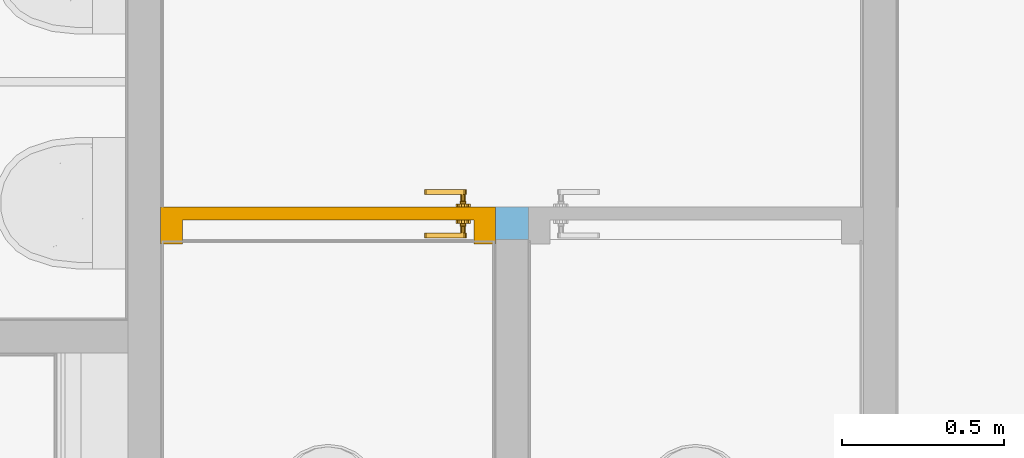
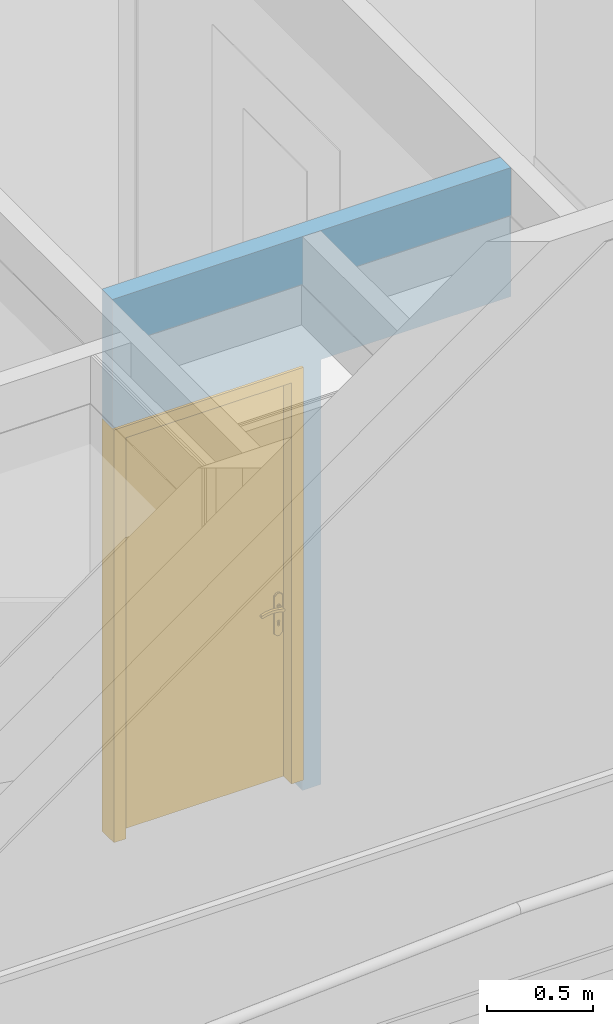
# One storey, part 5 of 788: 1 door, 2 openings, plus 1 element that does not belong to this part.
"""IFC2X3 building model written with IfcOpenShell, lengths in millimetres."""

from ifc_helpers import new_model, entity, si_unit, converted_unit, derived_unit, money_unit, direction, frame, origin_with_axes, place, context, subcontext, project, spatial, faceted_brep, source, transform, mapped, material, type_object, type_shapes, element, fill, save


model = new_model("IFC2X3")

# Units and contexts
model_context = context("Model", 3, precision=0.01, world=origin_with_axes(), true_north=direction((0.0, 1.0)))
plan_context = context("Plan", 3, precision=0.01, world=origin_with_axes(), true_north=direction((0.0, 1.0)))
body_context = subcontext(model_context, "Body", "Model", "MODEL_VIEW")
ifc_project = project(units=[si_unit("LENGTHUNIT", "METRE", prefix="MILLI"), si_unit("AREAUNIT", "SQUARE_METRE"), si_unit("VOLUMEUNIT", "CUBIC_METRE"), converted_unit("PLANEANGLEUNIT", "DEGREE", entity("IfcPlaneAngleMeasure", 0.0174532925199), si_unit("PLANEANGLEUNIT", "RADIAN"), dimensions=[0, 0, 0, 0, 0, 0, 0]), money_unit("EUR"), converted_unit("TIMEUNIT", "Year", entity("IfcTimeMeasure", 31556926.0), si_unit("TIMEUNIT", "SECOND"), dimensions=[0, 0, 1, 0, 0, 0, 0]), si_unit("MASSUNIT", "GRAM", prefix="KILO"), si_unit("THERMODYNAMICTEMPERATUREUNIT", "DEGREE_CELSIUS"), si_unit("LUMINOUSINTENSITYUNIT", "LUMEN"), si_unit("ENERGYUNIT", "JOULE", prefix="MEGA"), derived_unit("THERMALCONDUCTANCEUNIT", [(si_unit("POWERUNIT", "WATT"), 1), (si_unit("LENGTHUNIT", "METRE"), -1), (si_unit("THERMODYNAMICTEMPERATUREUNIT", "KELVIN"), -1)]), derived_unit("SPECIFICHEATCAPACITYUNIT", [(si_unit("ENERGYUNIT", "JOULE"), 1), (si_unit("MASSUNIT", "GRAM", prefix="KILO"), -1), (si_unit("THERMODYNAMICTEMPERATUREUNIT", "KELVIN"), -1)]), derived_unit("MASSDENSITYUNIT", [(si_unit("MASSUNIT", "GRAM", prefix="KILO"), 1), (si_unit("VOLUMEUNIT", "CUBIC_METRE"), -1)])], contexts=[model_context, plan_context])

# Site, building, storey
site_placement = place(None, origin_with_axes())
site = spatial("IfcSite", under=ifc_project, at=site_placement, Name="Site", CompositionType="ELEMENT")
building_placement = place(site_placement, origin_with_axes())
building = spatial("IfcBuilding", under=site, at=building_placement, Name="Naam gebouw", CompositionType="ELEMENT")
storey_placement = place(building_placement, origin_with_axes())
storey = spatial("IfcBuildingStorey", under=building, at=storey_placement, Name="Begane grond", CompositionType="ELEMENT", Elevation=0.0)

# Wall, openings, door
ifc_material = material(Name="Steen - Betonblok C")
wall_type = type_object("IfcWallType", Name="22 Binnenwand NC_betonblok 100mm 100", PredefinedType="ELEMENTEDWALL")
wall_placement = place(storey_placement, frame((69606.0166564, -56503.9858655, 830.0), z_axis=(0.0, 0.0, 1.0), x_axis=(-1.0, 0.0, 0.0)))
wall = element("IfcWall", 1, at=wall_placement, inside=storey, type_object=wall_type, material=ifc_material, Name="Binnenwand", context=body_context, shape_type="Brep", body=[
    faceted_brep([(1136.00000005, -50.0, 2447.0), (2170.00000005, -50.0, 2447.0), (2170.0, -50.0, 3190.0), (0.0, -50.0, 3190.0), (0.0, -50.0, 2447.0), (1034.0, -50.0, 2447.0), (1034.0, -50.0, 70.0), (1034.0, -50.0, 0.0), (1136.00000005, -50.0, 0.0), (1136.00000005, -50.0, 70.0), (1136.00000005, 50.0, 2447.0), (2170.00000005, 50.0, 2447.0), (2170.0, 50.0, 3190.0), (0.0, 50.0, 3190.0), (0.0, 50.0, 2447.0), (1034.0, 50.0, 2447.0), (1034.0, 50.0, 70.0), (1034.0, 50.0, 0.0), (1136.00000005, 50.0, 0.0), (1136.00000005, 50.0, 70.0)], [[[0, 1, 2, 3, 4, 5, 6, 7, 8, 9]], [[1, 0, 10, 11]], [[1, 11, 12, 2]], [[12, 13, 3, 2]], [[4, 3, 13, 14]], [[4, 14, 15, 5]], [[5, 15, 16, 6]], [[16, 17, 7, 6]], [[8, 7, 17, 18]], [[19, 9, 8, 18]], [[0, 9, 19, 10]], [[10, 19, 18, 17, 16, 15, 14, 13, 12, 11]]]),
])
opening_1_placement = place(wall_placement, frame((517.0, 0.0, 70.0), z_axis=(0.0, 0.0, 1.0), x_axis=(1.0, 0.0, 0.0)))
element("IfcOpeningElement", 2, at=opening_1_placement, cuts=wall, Name="b1.13", context=body_context, shape_type="Brep", body=[
    faceted_brep([(-517.0, 100.0, 2377.0), (-517.0, 100.0, 0.0), (-517.0, -200.0, 0.0), (-517.0, -200.0, 2377.0), (517.0, 100.0, 2377.0), (517.0, 100.0, 0.0), (517.0, -200.0, 0.0), (517.0, -200.0, 2377.0)], [[[0, 1, 2, 3]], [[0, 4, 5, 1]], [[1, 5, 6, 2]], [[3, 2, 6, 7]], [[4, 0, 3, 7]], [[5, 4, 7, 6]]]),
])
opening_2_placement = place(wall_placement, frame((1653.00000005, 0.0, 70.0), z_axis=(0.0, 0.0, 1.0), x_axis=(1.0, 0.0, 0.0)))
opening_2 = element("IfcOpeningElement", 3, at=opening_2_placement, cuts=wall, Name="b1.13-sp", context=body_context, shape_type="Brep", body=[
    faceted_brep([(517.0, -200.0, 2377.0), (517.0, -200.0, 0.0), (517.0, 100.0, 0.0), (517.0, 100.0, 2377.0), (-517.0, -200.0, 2377.0), (-517.0, -200.0, 0.0), (-517.0, 100.0, 0.0), (-517.0, 100.0, 2377.0)], [[[0, 1, 2, 3]], [[0, 4, 5, 1]], [[1, 5, 6, 2]], [[3, 2, 6, 7]], [[4, 0, 3, 7]], [[5, 4, 7, 6]]]),
])
door_style = type_object("IfcDoorStyle", Name="D1 25", ConstructionType="NOTDEFINED", OperationType="SINGLE_SWING_LEFT", ParameterTakesPrecedence=False, Sizeable=False)
shared_shape = source(origin_with_axes(), body_context, "Body", "Brep", [
    faceted_brep([(450.0, -40.0, 0.0), (450.0, -114.0, 0.0), (450.0, -114.0, 2310.0), (450.0, -40.0, 2310.0), (467.0, -40.0, 0.0), (467.0, 0.0, 0.0), (517.0, 0.0, 0.0), (517.0, -114.0, 0.0), (517.0, -114.0, 2310.0), (467.0, -40.0, 2310.0), (517.0, 0.0, 2310.0), (467.0, 0.0, 2310.0)], [[[0, 1, 2, 3]], [[4, 5, 6, 7, 1, 0]], [[1, 7, 8, 2]], [[9, 3, 2, 8, 10, 11]], [[9, 4, 0, 3]], [[11, 5, 4, 9]], [[11, 10, 6, 5]], [[6, 10, 8, 7]]]),
    faceted_brep([(-467.0, -40.0, 2310.0), (-467.0, 0.0, 2310.0), (-517.0, 0.0, 2310.0), (-517.0, -114.0, 2310.0), (-450.0, -114.0, 2310.0), (-450.0, -40.0, 2310.0), (-467.0, -40.0, 0.0), (-467.0, 0.0, 0.0), (-517.0, 0.0, 0.0), (-517.0, -114.0, 0.0), (-450.0, -114.0, 0.0), (-450.0, -40.0, 0.0)], [[[0, 1, 2, 3, 4, 5]], [[0, 6, 7, 1]], [[7, 8, 2, 1]], [[2, 8, 9, 3]], [[3, 9, 10, 4]], [[5, 4, 10, 11]], [[5, 11, 6, 0]], [[6, 11, 10, 9, 8, 7]]]),
    faceted_brep([(467.0, 0.0, 2327.0), (-467.0, 0.0, 2327.0), (-467.0, 0.0, 2310.0), (-517.0, 0.0, 2310.0), (-517.0, 0.0, 2377.0), (517.0, 0.0, 2377.0), (517.0, 0.0, 2310.0), (467.0, 0.0, 2310.0), (467.0, -40.0, 2327.0), (-467.0, -40.0, 2327.0), (-467.0, -40.0, 2310.0), (-450.0, -40.0, 2310.0), (-450.0, -114.0, 2310.0), (-517.0, -114.0, 2310.0), (-517.0, -114.0, 2377.0), (517.0, -114.0, 2377.0), (517.0, -114.0, 2310.0), (467.0, -40.0, 2310.0), (450.0, -114.0, 2310.0), (450.0, -40.0, 2310.0)], [[[0, 1, 2, 3, 4, 5, 6, 7]], [[0, 8, 9, 1]], [[1, 9, 10, 2]], [[10, 11, 12, 13, 3, 2]], [[4, 3, 13, 14]], [[5, 4, 14, 15]], [[6, 5, 15, 16]], [[17, 7, 6, 16, 18, 19]], [[7, 17, 8, 0]], [[10, 9, 8, 17, 19, 11]], [[19, 18, 12, 11]], [[12, 18, 16, 15, 14, 13]]]),
    faceted_brep([(421.702282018, -80.0, 1006.47213595), (421.702282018, -60.0, 1006.47213595), (417.0, -60.0, 1008.0), (417.0, -80.0, 1008.0), (424.60845213, -80.0, 1002.47213595), (424.60845213, -60.0, 1002.47213595), (422.877852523, -58.0, 1008.09016994), (417.0, -58.0, 1010.0), (412.297717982, -60.0, 1006.47213595), (412.297717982, -80.0, 1006.47213595), (409.39154787, -80.0, 1002.47213595), (409.39154787, -80.0, 997.527864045), (412.297717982, -80.0, 993.527864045), (417.0, -80.0, 992.0), (421.702282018, -80.0, 993.527864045), (424.60845213, -80.0, 997.527864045), (424.60845213, -60.0, 997.527864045), (426.510565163, -58.0, 1003.09016994), (422.877852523, -50.0, 1008.09016994), (417.0, -50.0, 1010.0), (411.122147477, -58.0, 1008.09016994), (409.39154787, -60.0, 1002.47213595), (409.39154787, -60.0, 997.527864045), (412.297717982, -60.0, 993.527864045), (417.0, -60.0, 992.0), (421.702282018, -60.0, 993.527864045), (426.510565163, -58.0, 996.909830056), (426.510565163, -50.0, 1003.09016994), (426.510565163, -50.0, 996.909830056), (422.877852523, -50.0, 991.909830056), (417.0, -50.0, 990.0), (411.122147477, -50.0, 991.909830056), (407.489434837, -50.0, 996.909830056), (407.489434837, -50.0, 1003.09016994), (411.122147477, -50.0, 1008.09016994), (407.489434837, -58.0, 1003.09016994), (407.489434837, -58.0, 996.909830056), (411.122147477, -58.0, 991.909830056), (417.0, -58.0, 990.0), (422.877852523, -58.0, 991.909830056)], [[[0, 1, 2, 3]], [[4, 5, 1, 0]], [[1, 6, 7, 2]], [[3, 2, 8, 9]], [[3, 9, 10, 11, 12, 13, 14, 15, 4, 0]], [[15, 16, 5, 4]], [[5, 17, 6, 1]], [[6, 18, 19, 7]], [[2, 7, 20, 8]], [[9, 8, 21, 10]], [[10, 21, 22, 11]], [[11, 22, 23, 12]], [[12, 23, 24, 13]], [[13, 24, 25, 14]], [[14, 25, 16, 15]], [[16, 26, 17, 5]], [[17, 27, 18, 6]], [[19, 18, 27, 28, 29, 30, 31, 32, 33, 34]], [[7, 19, 34, 20]], [[8, 20, 35, 21]], [[21, 35, 36, 22]], [[22, 36, 37, 23]], [[23, 37, 38, 24]], [[24, 38, 39, 25]], [[25, 39, 26, 16]], [[26, 28, 27, 17]], [[39, 29, 28, 26]], [[38, 30, 29, 39]], [[37, 31, 30, 38]], [[36, 32, 31, 37]], [[35, 33, 32, 36]], [[20, 34, 33, 35]]]),
    faceted_brep([(404.811616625, -50.0, 1067.59695641), (400.2, -50.0, 1060.0), (394.5, -50.0, 1060.0), (394.5, -50.0, 840.0), (400.2, -50.0, 840.0), (404.811616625, -50.0, 832.403043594), (412.556444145, -50.0, 828.044328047), (421.443555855, -50.0, 828.044328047), (429.188383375, -50.0, 832.403043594), (433.8, -50.0, 840.0), (439.5, -50.0, 840.0), (439.5, -50.0, 1060.0), (433.8, -50.0, 1060.0), (429.188383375, -50.0, 1067.59695641), (421.443555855, -50.0, 1071.95567195), (412.556444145, -50.0, 1071.95567195), (417.0, -50.0, 917.425445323), (422.375182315, -50.0, 915.143815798), (424.467830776, -50.0, 909.692280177), (422.0, -50.0, 904.4), (422.0, -50.0, 887.5), (420.535533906, -50.0, 883.964466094), (417.0, -50.0, 882.5), (413.464466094, -50.0, 883.964466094), (412.0, -50.0, 887.5), (412.0, -50.0, 904.4), (409.532169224, -50.0, 909.692280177), (411.624817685, -50.0, 915.143815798), (404.811616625, -40.0, 1067.59695641), (400.2, -40.0, 1060.0), (394.5, -40.0, 1060.0), (394.5, -40.0, 840.0), (400.2, -40.0, 840.0), (404.811616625, -40.0, 832.403043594), (412.556444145, -40.0, 828.044328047), (421.443555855, -40.0, 828.044328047), (429.188383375, -40.0, 832.403043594), (433.8, -40.0, 840.0), (439.5, -40.0, 840.0), (439.5, -40.0, 1060.0), (433.8, -40.0, 1060.0), (429.188383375, -40.0, 1067.59695641), (421.443555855, -40.0, 1071.95567195), (412.556444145, -40.0, 1071.95567195), (417.0, -40.0, 917.425445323), (422.375182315, -40.0, 915.143815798), (424.467830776, -40.0, 909.692280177), (422.0, -40.0, 904.4), (422.0, -40.0, 887.5), (420.535533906, -40.0, 883.964466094), (417.0, -40.0, 882.5), (413.464466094, -40.0, 883.964466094), (412.0, -40.0, 887.5), (412.0, -40.0, 904.4), (409.532169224, -40.0, 909.692280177), (411.624817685, -40.0, 915.143815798)], [[[0, 1, 2, 3, 4, 5, 6, 7, 8, 9, 10, 11, 12, 13, 14, 15], [16, 17, 18, 19, 20, 21, 22, 23, 24, 25, 26, 27]], [[0, 28, 29, 1]], [[1, 29, 30, 2]], [[2, 30, 31, 3]], [[3, 31, 32, 4]], [[4, 32, 33, 5]], [[5, 33, 34, 6]], [[6, 34, 35, 7]], [[7, 35, 36, 8]], [[8, 36, 37, 9]], [[9, 37, 38, 10]], [[10, 38, 39, 11]], [[11, 39, 40, 12]], [[12, 40, 41, 13]], [[13, 41, 42, 14]], [[14, 42, 43, 15]], [[15, 43, 28, 0]], [[16, 44, 45, 17]], [[17, 45, 46, 18]], [[18, 46, 47, 19]], [[47, 48, 20, 19]], [[21, 20, 48, 49]], [[22, 21, 49, 50]], [[23, 22, 50, 51]], [[24, 23, 51, 52]], [[25, 24, 52, 53]], [[25, 53, 54, 26]], [[26, 54, 55, 27]], [[27, 55, 44, 16]], [[32, 31, 30, 29, 28, 43, 42, 41, 40, 39, 38, 37, 36, 35, 34, 33], [46, 45, 44, 55, 54, 53, 52, 51, 50, 49, 48, 47]]]),
    faceted_brep([(302.747, -80.0, 1007.158), (302.745508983, -80.0, 1007.19388416), (302.745508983, -95.0, 1007.19388416), (302.747, -95.0, 1007.158), (329.774630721, -80.0, 1014.32652034), (357.602743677, -80.0, 1017.06086405), (385.508740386, -80.0, 1015.29002982), (412.768, -80.0, 1009.06), (419.170575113, -80.0, 1009.76125134), (424.672633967, -80.0, 1006.41280843), (426.991512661, -80.0, 1000.40385485), (425.165167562, -80.0, 994.227352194), (419.951302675, -80.0, 990.445773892), (413.513017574, -80.0, 990.628000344), (408.521392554, -80.0, 994.698430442), (408.542, -80.0, 994.666), (383.253286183, -80.0, 1000.19878945), (357.410818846, -80.0, 1001.71460194), (331.648684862, -80.0, 999.176244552), (306.599, -80.0, 992.646), (301.055815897, -80.0, 993.568490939), (297.69427449, -80.0, 998.071591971), (298.385844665, -80.0, 1003.64829442), (298.385844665, -95.0, 1003.64829442), (297.69427449, -95.0, 998.071591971), (301.055815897, -95.0, 993.568490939), (306.599, -95.0, 992.646), (331.648684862, -95.0, 999.176244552), (357.410818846, -95.0, 1001.71460194), (383.253286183, -95.0, 1000.19878945), (408.542, -95.0, 994.666), (408.521392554, -95.0, 994.698430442), (413.513017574, -95.0, 990.628000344), (419.951302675, -95.0, 990.445773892), (425.165167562, -95.0, 994.227352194), (426.991512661, -95.0, 1000.40385485), (424.672633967, -95.0, 1006.41280843), (419.170575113, -95.0, 1009.76125134), (412.768, -95.0, 1009.06), (385.508740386, -95.0, 1015.29002982), (357.602743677, -95.0, 1017.06086405), (329.774630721, -95.0, 1014.32652034)], [[[0, 1, 2, 3]], [[0, 4, 5, 6, 7, 8, 9, 10, 11, 12, 13, 14, 15, 16, 17, 18, 19, 20, 21, 22, 1]], [[1, 22, 23, 2]], [[3, 2, 23, 24, 25, 26, 27, 28, 29, 30, 31, 32, 33, 34, 35, 36, 37, 38, 39, 40, 41]], [[4, 0, 3, 41]], [[5, 4, 41, 40]], [[6, 5, 40, 39]], [[7, 6, 39, 38]], [[8, 7, 38, 37]], [[9, 8, 37, 36]], [[10, 9, 36, 35]], [[11, 10, 35, 34]], [[12, 11, 34, 33]], [[13, 12, 33, 32]], [[14, 13, 32, 31]], [[15, 14, 31, 30]], [[16, 15, 30, 29]], [[17, 16, 29, 28]], [[18, 17, 28, 27]], [[19, 18, 27, 26]], [[20, 19, 26, 25]], [[21, 20, 25, 24]], [[22, 21, 24, 23]]]),
    faceted_brep([(421.702282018, 40.0, 1006.47213595), (417.0, 40.0, 1008.0), (417.0, 20.0, 1008.0), (421.702282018, 20.0, 1006.47213595), (424.60845213, 40.0, 1002.47213595), (424.60845213, 40.0, 997.527864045), (421.702282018, 40.0, 993.527864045), (417.0, 40.0, 992.0), (412.297717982, 40.0, 993.527864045), (409.39154787, 40.0, 997.527864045), (409.39154787, 40.0, 1002.47213595), (412.297717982, 40.0, 1006.47213595), (412.297717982, 20.0, 1006.47213595), (417.0, 18.0, 1010.0), (422.877852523, 18.0, 1008.09016994), (424.60845213, 20.0, 1002.47213595), (424.60845213, 20.0, 997.527864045), (421.702282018, 20.0, 993.527864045), (417.0, 20.0, 992.0), (412.297717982, 20.0, 993.527864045), (409.39154787, 20.0, 997.527864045), (409.39154787, 20.0, 1002.47213595), (411.122147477, 18.0, 1008.09016994), (417.0, 10.0, 1010.0), (422.877852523, 10.0, 1008.09016994), (426.510565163, 18.0, 1003.09016994), (426.510565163, 18.0, 996.909830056), (422.877852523, 18.0, 991.909830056), (417.0, 18.0, 990.0), (411.122147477, 18.0, 991.909830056), (407.489434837, 18.0, 996.909830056), (407.489434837, 18.0, 1003.09016994), (411.122147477, 10.0, 1008.09016994), (407.489434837, 10.0, 1003.09016994), (407.489434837, 10.0, 996.909830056), (411.122147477, 10.0, 991.909830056), (417.0, 10.0, 990.0), (422.877852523, 10.0, 991.909830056), (426.510565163, 10.0, 996.909830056), (426.510565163, 10.0, 1003.09016994)], [[[0, 1, 2, 3]], [[1, 0, 4, 5, 6, 7, 8, 9, 10, 11]], [[1, 11, 12, 2]], [[3, 2, 13, 14]], [[4, 0, 3, 15]], [[5, 4, 15, 16]], [[6, 5, 16, 17]], [[7, 6, 17, 18]], [[8, 7, 18, 19]], [[9, 8, 19, 20]], [[10, 9, 20, 21]], [[11, 10, 21, 12]], [[2, 12, 22, 13]], [[14, 13, 23, 24]], [[15, 3, 14, 25]], [[16, 15, 25, 26]], [[17, 16, 26, 27]], [[18, 17, 27, 28]], [[19, 18, 28, 29]], [[20, 19, 29, 30]], [[21, 20, 30, 31]], [[12, 21, 31, 22]], [[13, 22, 32, 23]], [[23, 32, 33, 34, 35, 36, 37, 38, 39, 24]], [[25, 14, 24, 39]], [[26, 25, 39, 38]], [[27, 26, 38, 37]], [[28, 27, 37, 36]], [[29, 28, 36, 35]], [[30, 29, 35, 34]], [[31, 30, 34, 33]], [[22, 31, 33, 32]]]),
    faceted_brep([(404.811616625, 0.0, 1067.59695641), (400.2, 0.0, 1060.0), (394.5, 0.0, 1060.0), (394.5, 0.0, 840.0), (400.2, 0.0, 840.0), (404.811616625, 0.0, 832.403043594), (412.556444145, 0.0, 828.044328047), (421.443555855, 0.0, 828.044328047), (429.188383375, 0.0, 832.403043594), (433.8, 0.0, 840.0), (439.5, 0.0, 840.0), (439.5, 0.0, 1060.0), (433.8, 0.0, 1060.0), (429.188383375, 0.0, 1067.59695641), (421.443555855, 0.0, 1071.95567195), (412.556444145, 0.0, 1071.95567195), (417.0, 0.0, 917.425445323), (422.375182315, 0.0, 915.143815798), (424.467830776, 0.0, 909.692280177), (422.0, 0.0, 904.4), (422.0, 0.0, 887.5), (420.535533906, 0.0, 883.964466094), (417.0, 0.0, 882.5), (413.464466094, 0.0, 883.964466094), (412.0, 0.0, 887.5), (412.0, 0.0, 904.4), (409.532169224, 0.0, 909.692280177), (411.624817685, 0.0, 915.143815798), (404.811616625, 10.0, 1067.59695641), (400.2, 10.0, 1060.0), (394.5, 10.0, 1060.0), (394.5, 10.0, 840.0), (400.2, 10.0, 840.0), (404.811616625, 10.0, 832.403043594), (412.556444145, 10.0, 828.044328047), (421.443555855, 10.0, 828.044328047), (429.188383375, 10.0, 832.403043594), (433.8, 10.0, 840.0), (439.5, 10.0, 840.0), (439.5, 10.0, 1060.0), (433.8, 10.0, 1060.0), (429.188383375, 10.0, 1067.59695641), (421.443555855, 10.0, 1071.95567195), (412.556444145, 10.0, 1071.95567195), (417.0, 10.0, 917.425445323), (422.375182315, 10.0, 915.143815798), (424.467830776, 10.0, 909.692280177), (422.0, 10.0, 904.4), (422.0, 10.0, 887.5), (420.535533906, 10.0, 883.964466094), (417.0, 10.0, 882.5), (413.464466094, 10.0, 883.964466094), (412.0, 10.0, 887.5), (412.0, 10.0, 904.4), (409.532169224, 10.0, 909.692280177), (411.624817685, 10.0, 915.143815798)], [[[0, 1, 2, 3, 4, 5, 6, 7, 8, 9, 10, 11, 12, 13, 14, 15], [16, 17, 18, 19, 20, 21, 22, 23, 24, 25, 26, 27]], [[28, 29, 1, 0]], [[29, 30, 2, 1]], [[30, 31, 3, 2]], [[31, 32, 4, 3]], [[32, 33, 5, 4]], [[33, 34, 6, 5]], [[34, 35, 7, 6]], [[35, 36, 8, 7]], [[36, 37, 9, 8]], [[37, 38, 10, 9]], [[38, 39, 11, 10]], [[39, 40, 12, 11]], [[40, 41, 13, 12]], [[41, 42, 14, 13]], [[42, 43, 15, 14]], [[43, 28, 0, 15]], [[16, 44, 45, 17]], [[17, 45, 46, 18]], [[18, 46, 47, 19]], [[47, 48, 20, 19]], [[21, 20, 48, 49]], [[22, 21, 49, 50]], [[23, 22, 50, 51]], [[24, 23, 51, 52]], [[25, 24, 52, 53]], [[25, 53, 54, 26]], [[26, 54, 55, 27]], [[27, 55, 44, 16]], [[32, 31, 30, 29, 28, 43, 42, 41, 40, 39, 38, 37, 36, 35, 34, 33], [46, 45, 44, 55, 54, 53, 52, 51, 50, 49, 48, 47]]]),
    faceted_brep([(302.747, 40.0, 1007.158), (302.747, 55.0, 1007.158), (302.745508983, 55.0, 1007.19388416), (302.745508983, 40.0, 1007.19388416), (329.774630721, 40.0, 1014.32652034), (329.774630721, 55.0, 1014.32652034), (357.602743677, 55.0, 1017.06086405), (385.508740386, 55.0, 1015.29002982), (412.768, 55.0, 1009.06), (419.170575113, 55.0, 1009.76125134), (424.672633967, 55.0, 1006.41280843), (426.991512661, 55.0, 1000.40385485), (425.165167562, 55.0, 994.227352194), (419.951302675, 55.0, 990.445773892), (413.513017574, 55.0, 990.628000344), (408.521392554, 55.0, 994.698430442), (408.542, 55.0, 994.666), (383.253286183, 55.0, 1000.19878945), (357.410818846, 55.0, 1001.71460194), (331.648684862, 55.0, 999.176244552), (306.599, 55.0, 992.646), (301.055815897, 55.0, 993.568490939), (297.69427449, 55.0, 998.071591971), (298.385844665, 55.0, 1003.64829442), (298.385844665, 40.0, 1003.64829442), (297.69427449, 40.0, 998.071591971), (301.055815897, 40.0, 993.568490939), (306.599, 40.0, 992.646), (331.648684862, 40.0, 999.176244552), (357.410818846, 40.0, 1001.71460194), (383.253286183, 40.0, 1000.19878945), (408.542, 40.0, 994.666), (408.521392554, 40.0, 994.698430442), (413.513017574, 40.0, 990.628000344), (419.951302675, 40.0, 990.445773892), (425.165167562, 40.0, 994.227352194), (426.991512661, 40.0, 1000.40385485), (424.672633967, 40.0, 1006.41280843), (419.170575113, 40.0, 1009.76125134), (412.768, 40.0, 1009.06), (385.508740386, 40.0, 1015.29002982), (357.602743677, 40.0, 1017.06086405)], [[[0, 1, 2, 3]], [[4, 5, 1, 0]], [[1, 5, 6, 7, 8, 9, 10, 11, 12, 13, 14, 15, 16, 17, 18, 19, 20, 21, 22, 23, 2]], [[3, 2, 23, 24]], [[0, 3, 24, 25, 26, 27, 28, 29, 30, 31, 32, 33, 34, 35, 36, 37, 38, 39, 40, 41, 4]], [[41, 6, 5, 4]], [[40, 7, 6, 41]], [[39, 8, 7, 40]], [[38, 9, 8, 39]], [[37, 10, 9, 38]], [[36, 11, 10, 37]], [[35, 12, 11, 36]], [[34, 13, 12, 35]], [[33, 14, 13, 34]], [[32, 15, 14, 33]], [[31, 16, 15, 32]], [[30, 17, 16, 31]], [[29, 18, 17, 30]], [[28, 19, 18, 29]], [[27, 20, 19, 28]], [[26, 21, 20, 27]], [[25, 22, 21, 26]], [[24, 23, 22, 25]]]),
    faceted_brep([(-467.0, 0.0, 0.0), (467.0, 0.0, 0.0), (467.0, -40.0, 0.0), (-467.0, -40.0, 0.0), (-467.0, 0.0, 2327.0), (467.0, 0.0, 2327.0), (467.0, -40.0, 2327.0), (-467.0, -40.0, 2327.0)], [[[0, 1, 2, 3]], [[0, 4, 5, 1]], [[1, 5, 6, 2]], [[3, 2, 6, 7]], [[4, 0, 3, 7]], [[5, 4, 7, 6]]]),
])
type_shapes(door_style, [shared_shape])
door_placement = place(opening_2_placement, frame((517.0, 0.0, 0.0), z_axis=(0.0, 0.0, 1.0), x_axis=(-1.0, 0.0, 0.0)))
door = element("IfcDoor", 4, at=door_placement, inside=storey, type_object=door_style, Name="b1.13-sp", ObjectType="DOOR", OverallHeight=2377.0, OverallWidth=1034.0, context=body_context, shape_type="MappedRepresentation", body=[
    mapped(shared_shape, transform((517.0, 50.0, 0.0))),
])
fill(opening_2, door)

save(model, "model.ifc")
